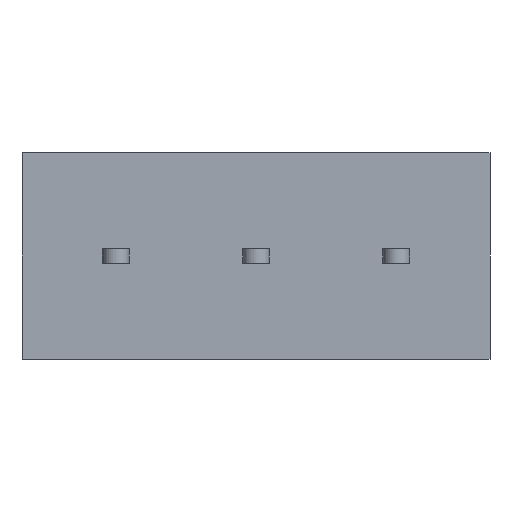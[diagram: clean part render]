
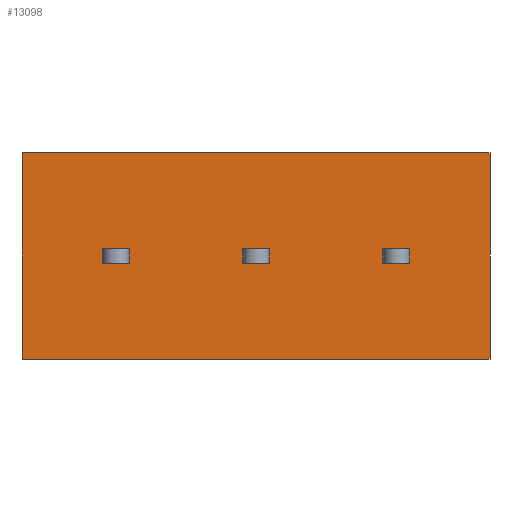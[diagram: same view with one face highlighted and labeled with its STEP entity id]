
A CAD part, front view. The second image highlights one B-rep face of the part: STEP entity #13098.
In plain terms, the highlighted planar face has unit normal (0, -1, 0).
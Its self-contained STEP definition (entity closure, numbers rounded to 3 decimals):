
#614=VECTOR('',#14798,1.);
#647=VECTOR('',#14857,1.);
#664=VECTOR('',#14875,1.);
#665=VECTOR('',#14876,1.);
#666=VECTOR('',#14877,1.);
#667=VECTOR('',#14878,1.);
#668=VECTOR('',#14879,1.);
#669=VECTOR('',#14880,1.);
#670=VECTOR('',#14881,1.);
#671=VECTOR('',#14882,1.);
#672=VECTOR('',#14883,1.);
#673=VECTOR('',#14884,1.);
#674=VECTOR('',#14885,1.);
#675=VECTOR('',#14886,1.);
#676=VECTOR('',#14887,1.);
#677=VECTOR('',#14888,1.);
#2149=LINE('',#17589,#614);
#2182=LINE('',#17654,#647);
#2199=LINE('',#17688,#664);
#2200=LINE('',#17691,#665);
#2201=LINE('',#17693,#666);
#2202=LINE('',#17695,#667);
#2203=LINE('',#17696,#668);
#2204=LINE('',#17699,#669);
#2205=LINE('',#17701,#670);
#2206=LINE('',#17703,#671);
#2207=LINE('',#17704,#672);
#2208=LINE('',#17707,#673);
#2209=LINE('',#17709,#674);
#2210=LINE('',#17711,#675);
#2211=LINE('',#17712,#676);
#2212=LINE('',#17713,#677);
#3707=VERTEX_POINT('',#17588);
#3708=VERTEX_POINT('',#17590);
#3722=VERTEX_POINT('',#17655);
#3723=VERTEX_POINT('',#17656);
#3738=VERTEX_POINT('',#17689);
#3739=VERTEX_POINT('',#17690);
#3740=VERTEX_POINT('',#17692);
#3741=VERTEX_POINT('',#17694);
#3742=VERTEX_POINT('',#17697);
#3743=VERTEX_POINT('',#17698);
#3744=VERTEX_POINT('',#17700);
#3745=VERTEX_POINT('',#17702);
#3746=VERTEX_POINT('',#17705);
#3747=VERTEX_POINT('',#17706);
#3748=VERTEX_POINT('',#17708);
#3749=VERTEX_POINT('',#17710);
#5300=EDGE_CURVE('',#3708,#3707,#2149,.T.);
#5333=EDGE_CURVE('',#3722,#3723,#2182,.T.);
#5350=EDGE_CURVE('',#3738,#3739,#2199,.T.);
#5351=EDGE_CURVE('',#3740,#3738,#2200,.T.);
#5352=EDGE_CURVE('',#3741,#3740,#2201,.T.);
#5353=EDGE_CURVE('',#3739,#3741,#2202,.T.);
#5354=EDGE_CURVE('',#3742,#3743,#2203,.T.);
#5355=EDGE_CURVE('',#3744,#3742,#2204,.T.);
#5356=EDGE_CURVE('',#3745,#3744,#2205,.T.);
#5357=EDGE_CURVE('',#3743,#3745,#2206,.T.);
#5358=EDGE_CURVE('',#3746,#3747,#2207,.T.);
#5359=EDGE_CURVE('',#3748,#3746,#2208,.T.);
#5360=EDGE_CURVE('',#3749,#3748,#2209,.T.);
#5361=EDGE_CURVE('',#3747,#3749,#2210,.T.);
#5362=EDGE_CURVE('',#3707,#3723,#2211,.T.);
#5363=EDGE_CURVE('',#3722,#3708,#2212,.T.);
#7467=ORIENTED_EDGE('',*,*,#5350,.F.);
#7468=ORIENTED_EDGE('',*,*,#5351,.F.);
#7469=ORIENTED_EDGE('',*,*,#5352,.F.);
#7470=ORIENTED_EDGE('',*,*,#5353,.F.);
#7471=ORIENTED_EDGE('',*,*,#5354,.F.);
#7472=ORIENTED_EDGE('',*,*,#5355,.F.);
#7473=ORIENTED_EDGE('',*,*,#5356,.F.);
#7474=ORIENTED_EDGE('',*,*,#5357,.F.);
#7475=ORIENTED_EDGE('',*,*,#5358,.F.);
#7476=ORIENTED_EDGE('',*,*,#5359,.F.);
#7477=ORIENTED_EDGE('',*,*,#5360,.F.);
#7478=ORIENTED_EDGE('',*,*,#5361,.F.);
#7479=ORIENTED_EDGE('',*,*,#5300,.T.);
#7480=ORIENTED_EDGE('',*,*,#5362,.T.);
#7481=ORIENTED_EDGE('',*,*,#5333,.F.);
#7482=ORIENTED_EDGE('',*,*,#5363,.T.);
#11446=EDGE_LOOP('',(#7467,#7468,#7469,#7470));
#11447=EDGE_LOOP('',(#7471,#7472,#7473,#7474));
#11448=EDGE_LOOP('',(#7475,#7476,#7477,#7478));
#11449=EDGE_LOOP('',(#7479,#7480,#7481,#7482));
#12272=FACE_BOUND('',#11446,.T.);
#12273=FACE_BOUND('',#11447,.T.);
#12274=FACE_BOUND('',#11448,.T.);
#12275=FACE_BOUND('',#11449,.T.);
#13098=ADVANCED_FACE('',(#12272,#12273,#12274,#12275),#22631,.T.);
#13884=AXIS2_PLACEMENT_3D('',#17687,#14874,$);
#14798=DIRECTION('',(1.,0.,0.));
#14857=DIRECTION('',(1.,0.,0.));
#14874=DIRECTION('',(0.,-1.,0.));
#14875=DIRECTION('',(-1.,0.,0.));
#14876=DIRECTION('',(0.,0.,1.));
#14877=DIRECTION('',(1.,0.,0.));
#14878=DIRECTION('',(0.,0.,-1.));
#14879=DIRECTION('',(-1.,0.,0.));
#14880=DIRECTION('',(0.,0.,1.));
#14881=DIRECTION('',(1.,0.,0.));
#14882=DIRECTION('',(0.,0.,-1.));
#14883=DIRECTION('',(-1.,0.,0.));
#14884=DIRECTION('',(0.,0.,1.));
#14885=DIRECTION('',(1.,0.,0.));
#14886=DIRECTION('',(0.,0.,-1.));
#14887=DIRECTION('',(0.,0.,1.));
#14888=DIRECTION('',(0.,0.,-1.));
#17588=CARTESIAN_POINT('',(31.7,0.,-7.));
#17589=CARTESIAN_POINT('',(29.4,0.,-7.));
#17590=CARTESIAN_POINT('',(0.,0.,-7.));
#17654=CARTESIAN_POINT('',(0.,0.,7.));
#17655=CARTESIAN_POINT('',(0.,0.,7.));
#17656=CARTESIAN_POINT('',(31.7,0.,7.));
#17687=CARTESIAN_POINT('',(29.4,0.,0.));
#17688=CARTESIAN_POINT('',(23.325,0.,0.5));
#17689=CARTESIAN_POINT('',(26.25,0.,0.5));
#17690=CARTESIAN_POINT('',(24.45,0.,0.5));
#17691=CARTESIAN_POINT('',(26.25,0.,1.75));
#17692=CARTESIAN_POINT('',(26.25,0.,-0.5));
#17693=CARTESIAN_POINT('',(23.325,0.,-0.5));
#17694=CARTESIAN_POINT('',(24.45,0.,-0.5));
#17695=CARTESIAN_POINT('',(24.45,0.,1.75));
#17696=CARTESIAN_POINT('',(13.825,0.,0.5));
#17697=CARTESIAN_POINT('',(16.75,0.,0.5));
#17698=CARTESIAN_POINT('',(14.95,0.,0.5));
#17699=CARTESIAN_POINT('',(16.75,0.,1.75));
#17700=CARTESIAN_POINT('',(16.75,0.,-0.5));
#17701=CARTESIAN_POINT('',(13.825,0.,-0.5));
#17702=CARTESIAN_POINT('',(14.95,0.,-0.5));
#17703=CARTESIAN_POINT('',(14.95,0.,1.75));
#17704=CARTESIAN_POINT('',(4.325,0.,0.5));
#17705=CARTESIAN_POINT('',(7.25,0.,0.5));
#17706=CARTESIAN_POINT('',(5.45,0.,0.5));
#17707=CARTESIAN_POINT('',(7.25,0.,1.75));
#17708=CARTESIAN_POINT('',(7.25,0.,-0.5));
#17709=CARTESIAN_POINT('',(4.325,0.,-0.5));
#17710=CARTESIAN_POINT('',(5.45,0.,-0.5));
#17711=CARTESIAN_POINT('',(5.45,0.,1.75));
#17712=CARTESIAN_POINT('',(31.7,0.,7.));
#17713=CARTESIAN_POINT('',(0.,0.,7.));
#22631=PLANE('',#13884);
